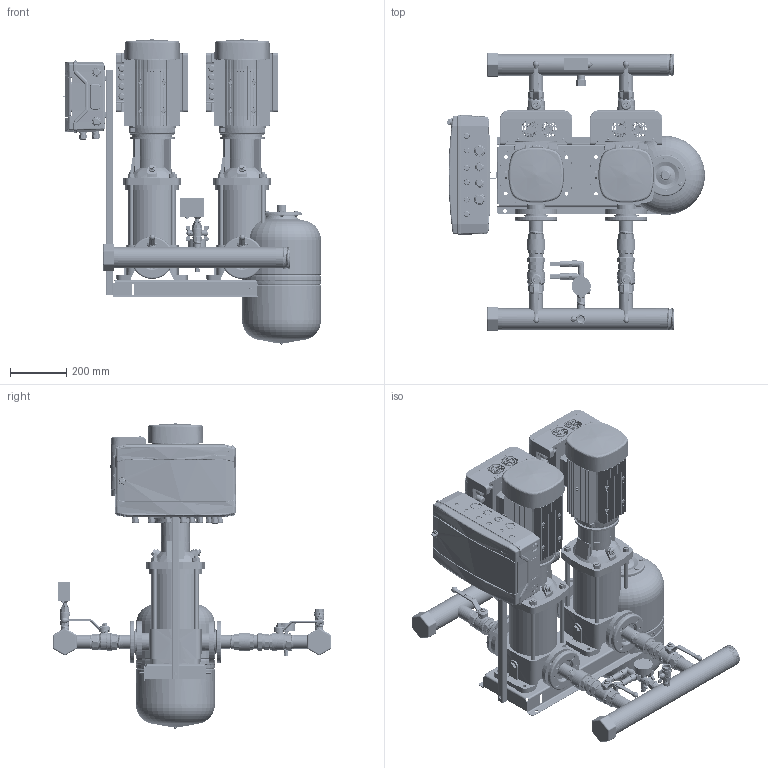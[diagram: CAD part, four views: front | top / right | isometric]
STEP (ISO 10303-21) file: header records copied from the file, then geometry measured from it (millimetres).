
FILE_DESCRIPTION(('CATIA V5 STEP Exchange','CAx-IF Rec.Pracs.--- Model Styling and Organization---1.4--- 2014-01-23','CAx-IF Rec.Pracs.---3D Tessellated Data Validation Properties---0.5---2014-09-14'),'2;1');
FILE_NAME('C:\Users\78432\YandexDisk\Drawings and 3D\3D Hydro Booster\Hydro-ME 3D\Hydro Models\Hydro ME 2 CRV10-xx\Hydro ME 2 CRVE10-7 (DIN).stp','2023-09-20T09:53:50+00:00',('none'),('none'),'CATIA Version 5-6 Release 2019 SP6','CATIA V5 STEP AP242 v1','none');
FILE_SCHEMA(('AP242_MANAGED_MODEL_BASED_3D_ENGINEERING_MIM_LF {1 0 10303 442 1 1 4}'));
Length unit declared in the file: millimetre
Products named in the file (49): Hydro ME 2 CRVE10-7 (DIN); 92051008; CRV10-7 Set (DIN); CRV 10-7_A_DIN_3kW; Base; Sleeve; Pumphead; Staybolt.1; Staybolt.2; Staybolt.3; Staybolt.4; Plug; AirVent; Motor; 00id2582; Adapter DN40-1,5" (96619634); 91040268; 91070086; 99110034; Hydraulica NY DN32 1,5 PN16; 92807557_9013-05; DN40_FM_LV_47.303.40; DN40_FF_LV_47.301; SAJ PDH30 4-7,5kW; 97941444; 405801; 405816; 91040267; 97941481; 00ID7527; Holder and CP 18mod; 92878909; Control ME (18mod); 2 sensors + manometer cpl.; manometr 16 bar; RPD-I-G1_2; 9021-01; 2070 1/2-1/2; _2020 1/2-1/2; 98594078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
Assembly tree (57 placements, depth 4):
  Hydro ME 2 CRVE10-7 (DIN)
    92051008
    CRV10-7 Set (DIN)  x2
      CRV 10-7_A_DIN_3kW
        Base
        Sleeve
        Pumphead
        Staybolt.1
        Staybolt.2
        Staybolt.3
        Staybolt.4
        Plug
        AirVent
        Motor
      00id2582
      Adapter DN40-1,5" (96619634)
        91040268
        91070086
        99110034
      Hydraulica NY DN32 1,5 PN16
      92807557_9013-05
      DN40_FM_LV_47.303.40
      DN40_FF_LV_47.301
      SAJ PDH30 4-7,5kW
    97941444  x2
      405801
      405816
      91040267
      97941481
    00ID7527  x2
    Holder and CP 18mod
      92878909
      Control ME (18mod)
    2 sensors + manometer cpl.
      manometr 16 bar
      RPD-I-G1_2  x2
      9021-01
      2070 1/2-1/2
      _2020 1/2-1/2
      98594078
    Tank 24L cpl.
      DN20_FF_BF_47.300.20
      9021-03
    Relay cpl.
      Relay RD-2R
      DN20_FF_BF_47.300.20
      2530 3/4-1/2
      _2530 1/2-1/4
    91078139
  WAV-24(D140 1'')
Bounding box: 916.82 x 989.22 x 1084.93 mm (x, y, z)
Volume: 75478649.5 mm3; surface area: 7598893 mm2
Topology: 192 solids, 424 shells, 27237 faces, 77512 edges, 51822 vertices
Faces by surface type: plane 11050, cylinder 6755, bspline 6516, cone 2089, torus 496, sphere 201, extrusion 130
Entity records: 725976 total; most frequent: CARTESIAN_POINT 365963, ORIENTED_EDGE 92521, EDGE_CURVE 46801, DIRECTION 42311, VERTEX_POINT 31229, VECTOR 19389, LINE 19324, B_SPLINE_CURVE_WITH_KNOTS 18588
